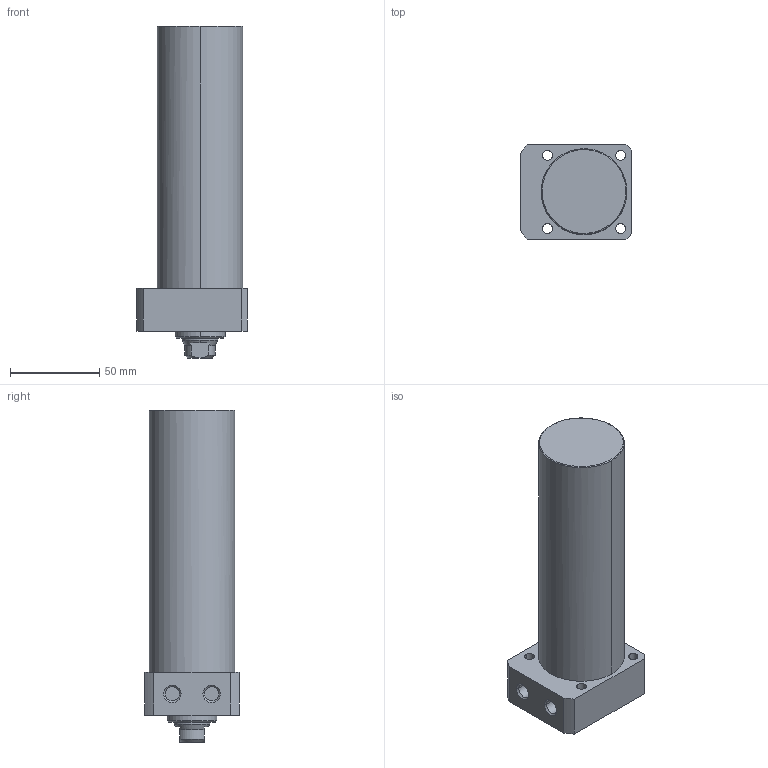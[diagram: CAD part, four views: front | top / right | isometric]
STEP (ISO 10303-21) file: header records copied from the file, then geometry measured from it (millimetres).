
FILE_DESCRIPTION((' '),'2;1');
FILE_NAME( 'TLLR-048CA-120.STEP.stp', '2025-10-24T16:34:31', (' '), ('--- Datakit www.datakit.com---'), ' Datakit CrossCadWare V2024.1 Dec 21 2023', 'Mastercam 2025', ' ');
FILE_SCHEMA(('AUTOMOTIVE_DESIGN { 1 0 10303 214 1 1 1 1 }'));
Length unit declared in the file: millimetre
Products named in the file (1): TLLR-048CA-120
Bounding box: 62 x 53 x 186 mm (x, y, z)
Volume: 344355 mm3; surface area: 37530.5 mm2
Topology: 1 solids, 1 shells, 63 faces, 177 edges, 122 vertices
Faces by surface type: cylinder 28, plane 19, cone 14, torus 2
Entity records: 2172 total; most frequent: CARTESIAN_POINT 409, DIRECTION 400, ORIENTED_EDGE 350, EDGE_CURVE 175, AXIS2_PLACEMENT_3D 169, VERTEX_POINT 122, CIRCLE 105, EDGE_LOOP 79
